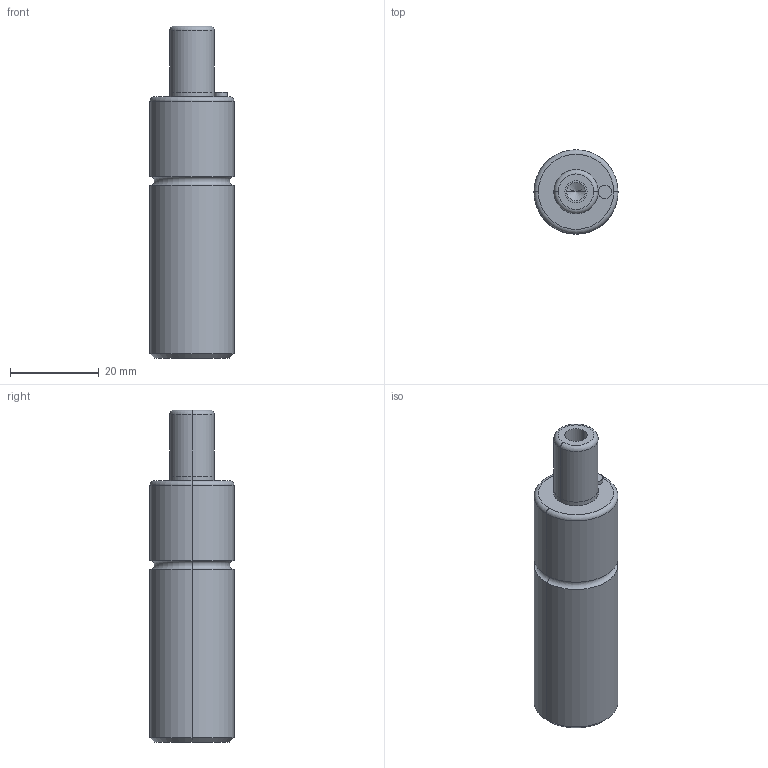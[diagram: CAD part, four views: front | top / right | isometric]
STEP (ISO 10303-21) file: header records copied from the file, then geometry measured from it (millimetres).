
FILE_DESCRIPTION(/* description */ (''),/* implementation_level */ '2;1');
FILE_NAME(/* name */ '3d_mgsa19-15_04552_r00.stp',/* time_stamp */ '2011-01-10T14:13:36+09:00',/* author */ ('MISUMI'),/* organization */ (''),/* preprocessor_version */ 'ST-DEVELOPER v11',/* originating_system */ 'UGS - NX 5.0',/* authorisation */ '');
FILE_SCHEMA (('CONFIG_CONTROL_DESIGN'));
Length unit declared in the file: millimetre
Products named in the file (1): 3d_mgsa19-15_04552_r00
Bounding box: 19 x 19 x 75 mm (x, y, z)
Volume: 17465.5 mm3; surface area: 4866.2 mm2
Topology: 1 solids, 1 shells, 36 faces, 74 edges, 42 vertices
Faces by surface type: cylinder 18, torus 6, cone 6, plane 6
Entity records: 1014 total; most frequent: DIRECTION 190, CARTESIAN_POINT 149, ORIENTED_EDGE 140, AXIS2_PLACEMENT_3D 83, EDGE_CURVE 70, CIRCLE 46, EDGE_LOOP 42, VERTEX_POINT 42
